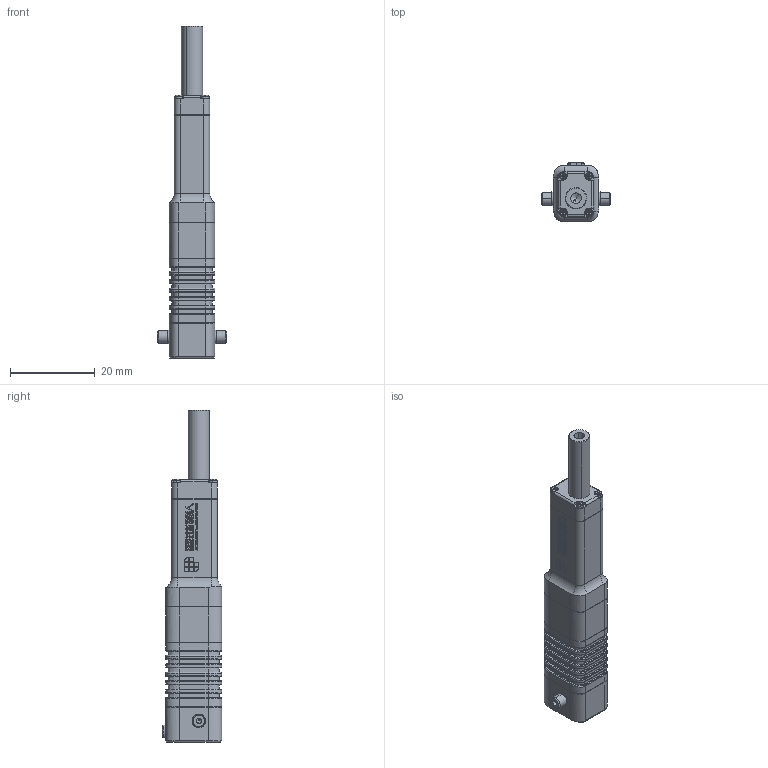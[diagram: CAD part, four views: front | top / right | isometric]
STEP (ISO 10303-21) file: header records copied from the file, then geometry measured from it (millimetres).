
FILE_DESCRIPTION (( 'STEP AP203' ), '1' );
FILE_NAME ('LA16-0x2D-1127.STEP', '2023-11-27T10:59:07', ( '' ), ( '' ), '' );
FILE_SCHEMA (( 'CONFIG_CONTROL_DESIGN' ));
Length unit declared in the file: millimetre
Products named in the file (3): LA16-0x2D-1127; exA820116-015祥凄詩杶奪; 錨璃2^LA16-0x2D
Assembly tree (2 placements, depth 2):
  LA16-0x2D-1127
    exA820116-015祥凄詩杶奪
    錨璃2^LA16-0x2D
Bounding box: 16.4 x 14 x 78.5 mm (x, y, z)
Volume: 7141.1 mm3; surface area: 3878.7 mm2
Topology: 2 solids, 2 shells, 1532 faces, 3990 edges, 2583 vertices
Faces by surface type: plane 818, bspline 556, cylinder 114, cone 24, torus 20
Entity records: 57849 total; most frequent: CARTESIAN_POINT 23742, ORIENTED_EDGE 7968, DIRECTION 5116, EDGE_CURVE 3984, VERTEX_POINT 2583, VECTOR 2566, LINE 2566, EDGE_LOOP 1659
